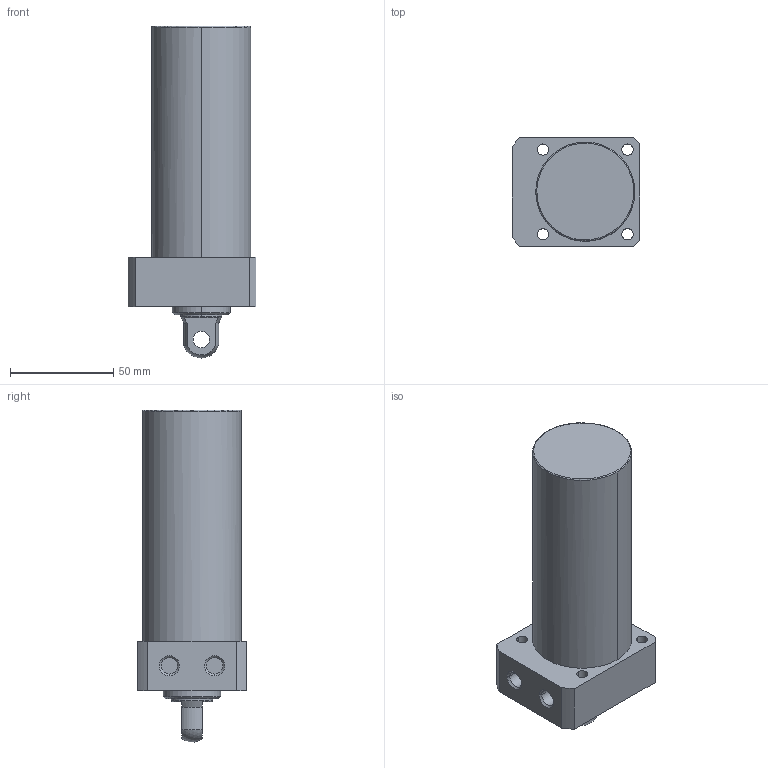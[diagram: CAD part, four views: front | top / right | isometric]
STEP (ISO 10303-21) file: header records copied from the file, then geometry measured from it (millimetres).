
FILE_DESCRIPTION((' '),'2;1');
FILE_NAME( 'TLLR-048CP-085.STEP.stp', '2025-10-24T16:34:39', (' '), ('--- Datakit www.datakit.com---'), ' Datakit CrossCadWare V2024.1 Dec 21 2023', 'Mastercam 2025', ' ');
FILE_SCHEMA(('AUTOMOTIVE_DESIGN { 1 0 10303 214 1 1 1 1 }'));
Length unit declared in the file: millimetre
Products named in the file (1): TLLR-048CP-085
Bounding box: 62 x 53 x 160.94 mm (x, y, z)
Volume: 282158 mm3; surface area: 32295.7 mm2
Topology: 1 solids, 1 shells, 57 faces, 164 edges, 116 vertices
Faces by surface type: cylinder 28, plane 18, cone 8, torus 2, sphere 1
Entity records: 2006 total; most frequent: DIRECTION 378, CARTESIAN_POINT 350, ORIENTED_EDGE 328, EDGE_CURVE 164, AXIS2_PLACEMENT_3D 160, VERTEX_POINT 116, CIRCLE 102, EDGE_LOOP 74
